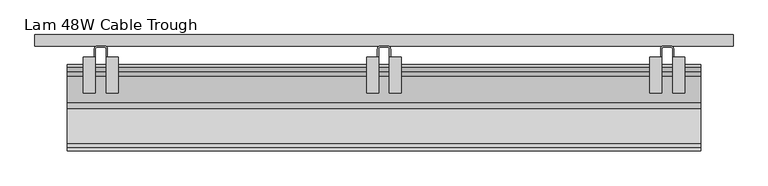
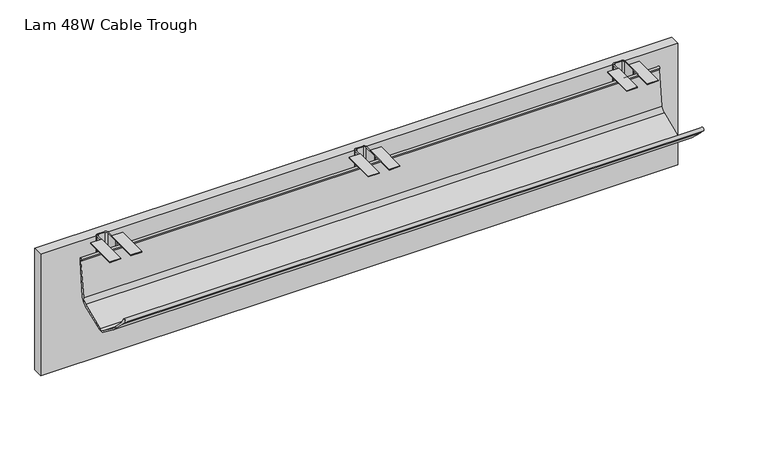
"""IFC4 building model written with IfcOpenShell, lengths in millimetres: furniture geometry, HermanMiller_ThrivePortfolio_Y1113_FabricModestyPanel : Lam 48W Cable Trough."""

import ifcopenshell
import ifcopenshell.guid

model = None  # the IFC model being written
_history = None  # IfcOwnerHistory: only IFC2X3 demands one
_inside = {}  # id of a spatial element -> (the spatial element, [elements in it])
_under = {}  # id of a project, library or spatial element -> (it, [spatial elements below it])
_declared = {}  # id of a project -> (the project, [libraries it declares])
_typed = {}  # id of a type object -> (the type object, [elements of that type])
_made_of = {}  # id of a material, layer set ... -> (it, [elements and type objects made of it])


def new_model(schema):
    """Start an empty IFC model of exactly this schema.

    Asked for "IFC4X3", IfcOpenShell would pick the latest addendum, in which some entities
    have other attributes; the version numbers below select the first issue.
    IFC2X3 requires an IfcOwnerHistory on every rooted entity: one is made here for all.
    """
    global model, _history
    if schema == "IFC4X3":
        model = ifcopenshell.file(schema_version=(4, 3, 0, 0))
    else:
        model = ifcopenshell.file(schema=schema)
    _inside.clear()
    _under.clear()
    _declared.clear()
    _typed.clear()
    _made_of.clear()
    _history = None
    if model.schema == "IFC2X3":
        org = make("IfcOrganization", Name="unknown")
        user = make(
            "IfcPersonAndOrganization",
            ThePerson=make("IfcPerson", FamilyName="unknown"),
            TheOrganization=org,
        )
        app = make(
            "IfcApplication",
            ApplicationDeveloper=org,
            Version="unknown",
            ApplicationFullName="unknown",
            ApplicationIdentifier="unknown",
        )
        _history = make(
            "IfcOwnerHistory",
            OwningUser=user,
            OwningApplication=app,
            ChangeAction="ADDED",
            CreationDate=0,
        )
    return model


def make(cls, **values):
    """One entity of the class cls with the attributes given. An attribute that is None is left unset."""
    return model.create_entity(
        cls, **{name: value for name, value in values.items() if value is not None}
    )


def rooted(cls, **values):
    """An entity with a GlobalId (a new one), such as an element, a storey or a relation."""
    return make(cls, GlobalId=ifcopenshell.guid.new(), OwnerHistory=_history, **values)


def si_unit(unit_type, name, prefix=None):
    """IfcSIUnit, for example si_unit("LENGTHUNIT", "METRE", prefix="MILLI")."""
    return make("IfcSIUnit", UnitType=unit_type, Prefix=prefix, Name=name)


def assignment(units):
    """IfcUnitAssignment: the units of a project."""
    return None if units is None else make("IfcUnitAssignment", Units=units)


def point(xyz):
    """IfcCartesianPoint."""
    return None if xyz is None else make("IfcCartesianPoint", Coordinates=xyz)


def direction(xyz):
    """IfcDirection."""
    return None if xyz is None else make("IfcDirection", DirectionRatios=xyz)


def frame(location, z_axis=None, x_axis=None):
    """IfcAxis2Placement3D, a coordinate frame: its origin and axes. An axis left out is left unset."""
    return make(
        "IfcAxis2Placement3D",
        Location=point(location),
        Axis=direction(z_axis),
        RefDirection=direction(x_axis),
    )


def frame_2d(location, x_axis=None):
    """IfcAxis2Placement2D, a coordinate frame in the plane: its origin and x axis."""
    return make(
        "IfcAxis2Placement2D", Location=point(location), RefDirection=direction(x_axis)
    )


def origin():
    """The frame at (0, 0, 0) with its axes left unset."""
    return frame((0.0, 0.0, 0.0))


def place(relative_to, where):
    """IfcLocalPlacement: puts the frame where relative to a parent placement (None: the world)."""
    return make(
        "IfcLocalPlacement", PlacementRelTo=relative_to, RelativePlacement=where
    )


def context(
    kind, dimensions, precision=None, world=None, true_north=None, identifier=None
):
    """IfcGeometricRepresentationContext, for example the 3D "Model" context."""
    return make(
        "IfcGeometricRepresentationContext",
        ContextIdentifier=identifier,
        ContextType=kind,
        CoordinateSpaceDimension=dimensions,
        Precision=precision,
        WorldCoordinateSystem=world,
        TrueNorth=true_north,
    )


def project(units=None, contexts=None):
    """IfcProject with its units and contexts."""
    return rooted(
        "IfcProject",
        Name="project",
        RepresentationContexts=contexts,
        UnitsInContext=assignment(units),
    )


def spatial(cls, under=None, at=None, **own):
    """A site, building, storey or space (cls), placed at a placement, below another one or the project."""
    s = rooted(cls, ObjectPlacement=at, **own)
    if under is not None:
        _under.setdefault(under.id(), (under, []))[1].append(s)
    return s


def polyline(points):
    """IfcPolyline through the points."""
    return make("IfcPolyline", Points=[point(p) for p in points])


def circle_curve(where, radius):
    """IfcCircle in the frame where."""
    return make("IfcCircle", Position=where, Radius=radius)


def trimmed(basis, trim1, trim2, sense, master):
    """IfcTrimmedCurve: the piece of a basis curve between two trims."""
    return make(
        "IfcTrimmedCurve",
        BasisCurve=basis,
        Trim1=trim1,
        Trim2=trim2,
        SenseAgreement=sense,
        MasterRepresentation=master,
    )


def segment(curve, same_sense, transition):
    """IfcCompositeCurveSegment."""
    return make(
        "IfcCompositeCurveSegment",
        Transition=transition,
        SameSense=same_sense,
        ParentCurve=curve,
    )


def composite_curve(segments, self_intersect=None):
    """IfcCompositeCurve: segments joined end to end."""
    return make("IfcCompositeCurve", Segments=segments, SelfIntersect=self_intersect)


def outline(outer, holes=None, kind="AREA"):
    """IfcArbitraryClosedProfileDef: a profile drawn as a closed curve; with holes, ...WithVoids."""
    if holes is None:
        return make("IfcArbitraryClosedProfileDef", ProfileType=kind, OuterCurve=outer)
    return make(
        "IfcArbitraryProfileDefWithVoids",
        ProfileType=kind,
        OuterCurve=outer,
        InnerCurves=holes,
    )


def extrude(swept, where, along, depth):
    """IfcExtrudedAreaSolid: the profile swept, set in the frame where, extruded along a direction by depth."""
    return make(
        "IfcExtrudedAreaSolid",
        SweptArea=swept,
        Position=where,
        ExtrudedDirection=direction(along),
        Depth=depth,
    )


def shape(context_of_items, identifier, shape_type, items):
    """IfcShapeRepresentation: the items that make up one representation, for example the "Body"."""
    return make(
        "IfcShapeRepresentation",
        ContextOfItems=context_of_items,
        RepresentationIdentifier=identifier,
        RepresentationType=shape_type,
        Items=items,
    )


def source(mapping_origin, context_of_items, identifier, shape_type, items):
    """IfcRepresentationMap: a shape defined once, which mapped items show again and again."""
    return make(
        "IfcRepresentationMap",
        MappingOrigin=mapping_origin,
        MappedRepresentation=shape(context_of_items, identifier, shape_type, items),
    )


def transform(
    local_origin,
    x_axis=None,
    y_axis=None,
    z_axis=None,
    scale=None,
    scale2=None,
    scale3=None,
    uniform=True,
):
    """IfcCartesianTransformationOperator3D, or its non-uniform kind. x_axis, y_axis, z_axis: its Axis1, 2, 3."""
    if uniform:
        return make(
            "IfcCartesianTransformationOperator3D",
            Axis1=direction(x_axis),
            Axis2=direction(y_axis),
            LocalOrigin=point(local_origin),
            Scale=scale,
            Axis3=direction(z_axis),
        )
    return make(
        "IfcCartesianTransformationOperator3DnonUniform",
        Axis1=direction(x_axis),
        Axis2=direction(y_axis),
        LocalOrigin=point(local_origin),
        Scale=scale,
        Axis3=direction(z_axis),
        Scale2=scale2,
        Scale3=scale3,
    )


def mapped(mapping_source, mapping_target):
    """IfcMappedItem: shows the shape of a source again, moved by a transform."""
    return make(
        "IfcMappedItem", MappingSource=mapping_source, MappingTarget=mapping_target
    )


def made_of(thing, what):
    """Note that an element or type object is made of a material, layer set ...; save() writes the relation."""
    if what is not None:
        _made_of.setdefault(what.id(), (what, []))[1].append(thing)
    return thing


def element(
    cls,
    number,
    at=None,
    inside=None,
    cuts=None,
    type_object=None,
    material=None,
    context=None,
    identifier="Body",
    shape_type=None,
    held_by="IfcProductDefinitionShape",
    body=None,
    shapes=None,
    **own,
):
    """One element of the class cls, such as IfcWall. Its Tag is "e" and its number.

    at: its placement. inside: the storey or other place that contains it. cuts: it is an
    opening in that element (IfcRelVoidsElement). A single representation is given by context,
    identifier, shape_type and body (its items); several are given by shapes. held_by: the class
    of the entity that holds the representations. save() writes the other relations.
    """
    e = rooted(cls, Tag="e%d" % number, ObjectPlacement=at, **own)
    if body is not None:
        shapes = [shape(context, identifier, shape_type, body)]
    if shapes is not None:
        e.Representation = make(held_by, Representations=shapes)
    if inside is not None:
        _inside.setdefault(inside.id(), (inside, []))[1].append(e)
    if cuts is not None:
        rooted(
            "IfcRelVoidsElement", RelatingBuildingElement=cuts, RelatedOpeningElement=e
        )
    if type_object is not None:
        _typed.setdefault(type_object.id(), (type_object, []))[1].append(e)
    return made_of(e, material)


def aggregate(whole, parts):
    """IfcRelAggregates: a whole, such as a stair, and the parts it consists of."""
    return rooted("IfcRelAggregates", RelatingObject=whole, RelatedObjects=parts)


def save(model, path):
    """Write the relations noted so far, then the file.

    IfcRelAggregates (storeys below a building ...), IfcRelContainedInSpatialStructure (elements
    in a storey), IfcRelDefinesByType, IfcRelAssociatesMaterial and IfcRelDeclares: one each for
    every whole, place, type object, material and project.
    """
    for whole, parts in _under.values():
        aggregate(whole, parts)
    for where, things in _inside.values():
        rooted(
            "IfcRelContainedInSpatialStructure",
            RelatedElements=things,
            RelatingStructure=where,
        )
    for kind, things in _typed.values():
        rooted("IfcRelDefinesByType", RelatedObjects=things, RelatingType=kind)
    for what, things in _made_of.values():
        rooted("IfcRelAssociatesMaterial", RelatedObjects=things, RelatingMaterial=what)
    for by, libraries in _declared.values():
        rooted("IfcRelDeclares", RelatingContext=by, RelatedDefinitions=libraries)
    model.write(path)


def plane_surface(at):
    """IfcPlane: the flat surface through the origin of the frame at, square to its z axis."""
    return make("IfcPlane", Position=at)


def cylinder_surface(at, radius):
    """IfcCylindricalSurface: all points at the distance radius from the z axis of the frame at."""
    return make("IfcCylindricalSurface", Position=at, Radius=radius)


def revolved_surface(curve, axis_point, axis_direction):
    """IfcSurfaceOfRevolution: the curve turned about the line through axis_point along axis_direction."""
    return make(
        "IfcSurfaceOfRevolution",
        SweptCurve=make("IfcArbitraryOpenProfileDef", ProfileType="CURVE", Curve=curve),
        AxisPosition=make("IfcAxis1Placement", Location=point(axis_point), Axis=direction(axis_direction)),
    )


def advanced_brep(points, edges, surfaces, faces):
    """IfcAdvancedBrep: a solid bounded by faces that lie on surfaces and meet in shared edges.

    An edge is (start, end): straight between two places in points (the first is 0);
    or (start, end, curve); or (start, end, curve, False) where it runs against its curve.
    A face is (place in surfaces, loops), or (place, loops, False) where it looks against
    its surface's normal. A loop lists edges by number (the first is 1), with a minus sign
    where the edge is run from its end to its start. The first loop is the outer one.
    """
    corners = [point(p) for p in points]
    vertices = [make("IfcVertexPoint", VertexGeometry=c) for c in corners]
    made = []
    for start, end, *more in edges:
        made.append(
            make(
                "IfcEdgeCurve",
                EdgeStart=vertices[start],
                EdgeEnd=vertices[end],
                EdgeGeometry=more[0] if more else make("IfcPolyline", Points=[corners[start], corners[end]]),
                SameSense=more[1] if len(more) > 1 else True,
            )
        )
    hull = []
    for where, loops, *sense in faces:
        bounds = []
        for j, loop in enumerate(loops):
            ring = [make("IfcOrientedEdge", EdgeElement=made[abs(k) - 1], Orientation=k > 0) for k in loop]
            bounds.append(
                make(
                    "IfcFaceOuterBound" if j == 0 else "IfcFaceBound",
                    Bound=make("IfcEdgeLoop", EdgeList=ring),
                    Orientation=True,
                )
            )
        hull.append(make("IfcAdvancedFace", Bounds=bounds, FaceSurface=surfaces[where], SameSense=sense[0] if sense else True))
    return make("IfcAdvancedBrep", Outer=make("IfcClosedShell", CfsFaces=hull))


def lam_48w_cable_trough_d124625d(model_context):
    return source(origin(), model_context, "Body", "SolidModel", [
        advanced_brep(
        [(1151.1153477, -129.9784643, 581.1783587), (1151.1153477, -138.7139894, 582.4060567), (1151.1153477, -198.75422, 634.7826925), (1151.1153477, -205.6805694, 647.1068285), (1151.1153477, -210.7198187, 643.3318213), (1151.1153477, -201.9455586, 634.3526316), (1151.1153477, -140.1690696, 580.3237712), (1151.1153477, -128.7464487, 578.9254856), (1151.1153477, -81.6381997, 596.9970871), (1151.1153477, -71.8455102, 609.1183797), (1151.1153477, -64.3572545, 676.9567898), (1151.1153477, -64.1154724, 681.4861643), (1151.1153477, -68.0580279, 680.8258123), (1151.1153477, -66.8071049, 677.1174631), (1151.1153477, -75.8148763, 609.8656088), (1151.1153477, -83.0609093, 601.0742849), (64.9478, -129.9784643, 581.1783587), (64.9478, -83.0609093, 601.0742849), (64.9478, -75.8148763, 609.8656088), (64.9478, -66.8071049, 677.1174631), (64.9478, -68.0580279, 680.8258123), (64.9478, -64.1154724, 681.4861643), (64.9478, -64.3572545, 676.9567898), (64.9478, -71.8455102, 609.1183797), (64.9478, -81.6381999, 596.9970876), (64.9478, -128.7464487, 578.9254856), (64.9478, -140.1690696, 580.3237712), (64.9478, -201.9455586, 634.3526316), (64.9478, -210.7198187, 643.3318213), (64.9478, -205.6805694, 647.1068285), (64.9478, -198.75422, 634.7826925), (64.9478, -138.7139894, 582.4060567)],
        [
            (0, 1, circle_curve(frame((1151.1153477, -133.1380873, 590.3885672), z_axis=(-1.0, 0.0, 0.0), x_axis=(0.0, 1.0, 0.0)), 9.7371022)),
            (1, 2, circle_curve(frame((1151.1153477, 73.7032601, 886.5044589), z_axis=(-1.0, 0.0, 0.0), x_axis=(0.0, 1.0, 0.0)), 370.9405965)),
            (2, 3),
            (3, 4, circle_curve(frame((1151.1153477, -208.4487225, 645.5510849), z_axis=(1.0, 0.0, 0.0), x_axis=(0.0, 1.0, 0.0)), 3.1753754)),
            (4, 5),
            (5, 6, circle_curve(frame((1151.1153477, 76.537838, 890.4379944), z_axis=(1.0, 0.0, 0.0), x_axis=(0.0, 1.0, 0.0)), 378.3288454)),
            (6, 7, circle_curve(frame((1151.1153477, -133.1410154, 590.381132), z_axis=(1.0, 0.0, 0.0), x_axis=(0.0, 1.0, 0.0)), 12.2696394)),
            (7, 8, circle_curve(frame((1151.1153477, -392.0017774, 1335.603441), z_axis=(1.0, 0.0, 0.0), x_axis=(0.0, 1.0, 0.0)), 801.1647124)),
            (8, 9, circle_curve(frame((1151.1153477, -88.0102619, 612.1613845), z_axis=(1.0, 0.0, 0.0), x_axis=(0.0, 1.0, 0.0)), 16.4486801)),
            (9, 10, circle_curve(frame((1151.1153477, -512.7649574, 692.1212018), z_axis=(1.0, 0.0, 0.0), x_axis=(0.0, 1.0, 0.0)), 448.6640474)),
            (10, 11),
            (11, 12, circle_curve(frame((1151.1153477, -66.1477003, 681.5198841), z_axis=(1.0, 0.0, 0.0), x_axis=(0.0, 1.0, 0.0)), 2.0325076)),
            (12, 13),
            (13, 14, circle_curve(frame((1151.1153477, -447.5076004, 693.8796345), z_axis=(-1.0, 0.0, 0.0), x_axis=(0.0, 1.0, 0.0)), 381.0693344)),
            (14, 15, circle_curve(frame((1151.1153477, -89.557462, 613.8107535), z_axis=(-1.0, 0.0, 0.0), x_axis=(0.0, 1.0, 0.0)), 14.2976511)),
            (15, 0, circle_curve(frame((1151.1153477, -247.1923462, 922.853387), z_axis=(-1.0, 0.0, 0.0), x_axis=(0.0, 1.0, 0.0)), 361.2214267)),
            (16, 17, circle_curve(frame((64.9478, -247.1923462, 922.853387), z_axis=(1.0, 0.0, 0.0), x_axis=(0.0, 1.0, 0.0)), 361.2214267)),
            (17, 18, circle_curve(frame((64.9478, -89.557462, 613.8107535), z_axis=(1.0, 0.0, 0.0), x_axis=(0.0, 1.0, 0.0)), 14.2976511)),
            (18, 19, circle_curve(frame((64.9478, -447.5076004, 693.8796345), z_axis=(1.0, 0.0, 0.0), x_axis=(0.0, 1.0, 0.0)), 381.0693344)),
            (19, 20),
            (20, 21, circle_curve(frame((64.9478, -66.1477003, 681.5198841), z_axis=(-1.0, 0.0, 0.0), x_axis=(0.0, 1.0, 0.0)), 2.0325076)),
            (21, 22),
            (22, 23, circle_curve(frame((64.9478, -512.7649574, 692.1212018), z_axis=(-1.0, 0.0, 0.0), x_axis=(0.0, 1.0, 0.0)), 448.6640474)),
            (23, 24, circle_curve(frame((64.9478, -88.0102619, 612.1613845), z_axis=(-1.0, 0.0, 0.0), x_axis=(0.0, 1.0, 0.0)), 16.4486801)),
            (24, 25, circle_curve(frame((64.9478, -392.0017774, 1335.603441), z_axis=(-1.0, 0.0, 0.0), x_axis=(0.0, 1.0, 0.0)), 801.1647124)),
            (25, 26, circle_curve(frame((64.9478, -133.1410154, 590.381132), z_axis=(-1.0, 0.0, 0.0), x_axis=(0.0, 1.0, 0.0)), 12.2696394)),
            (26, 27, circle_curve(frame((64.9478, 76.537838, 890.4379944), z_axis=(-1.0, 0.0, 0.0), x_axis=(0.0, 1.0, 0.0)), 378.3288454)),
            (27, 28),
            (28, 29, circle_curve(frame((64.9478, -208.4487225, 645.5510849), z_axis=(-1.0, 0.0, 0.0), x_axis=(0.0, 1.0, 0.0)), 3.1753754)),
            (29, 30),
            (30, 31, circle_curve(frame((64.9478, 73.7032601, 886.5044589), z_axis=(1.0, 0.0, 0.0), x_axis=(0.0, 1.0, 0.0)), 370.9405965)),
            (31, 16, circle_curve(frame((64.9478, -133.1380873, 590.3885672), z_axis=(1.0, 0.0, 0.0), x_axis=(0.0, 1.0, 0.0)), 9.7371022)),
            (0, 16),
            (31, 1),
            (30, 2),
            (29, 3),
            (28, 4),
            (27, 5),
            (26, 6),
            (25, 7),
            (24, 8),
            (23, 9),
            (22, 10),
            (21, 11),
            (20, 12),
            (19, 13),
            (18, 14),
            (17, 15),
        ],
        [
            plane_surface(frame((1151.1153477, -123.4009851, 590.3885672), z_axis=(1.0, 0.0, 0.0), x_axis=(0.0, 0.0, -1.0))),
            plane_surface(frame((64.9478, -123.4009851, 590.3885672), z_axis=(-1.0, 0.0, 0.0), x_axis=(0.0, 0.0, 1.0))),
            revolved_surface(polyline([(64.9478, -123.4009851, 590.3885672), (1151.1153477, -123.4009851, 590.3885672)]), (64.9478, -133.1380873, 590.3885672), (-1.0, 0.0, 0.0)),
            revolved_surface(polyline([(64.9478, 444.64385660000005, 886.5044589), (1151.1153477, 444.64385660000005, 886.5044589)]), (64.9478, 73.7032601, 886.5044589), (-1.0, 0.0, 0.0)),
            plane_surface(frame((1151.1153477, -198.75422, 634.7826925), z_axis=(0.0, 0.8717561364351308, 0.48994003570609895), x_axis=(-1.0, 0.0, 0.0))),
            cylinder_surface(frame((64.9478, -208.4487225, 645.5510849), z_axis=(1.0, 0.0, 0.0), x_axis=(0.0, 1.0, 0.0)), 3.1753754),
            plane_surface(frame((1151.1153477, -210.7198187, 643.3318213), z_axis=(0.0, -0.7152213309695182, -0.698898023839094), x_axis=(-1.0, 0.0, 0.0))),
            cylinder_surface(frame((64.9478, 76.537838, 890.4379944), z_axis=(1.0, 0.0, 0.0), x_axis=(0.0, 1.0, 0.0)), 378.3288454),
            cylinder_surface(frame((64.9478, -133.1410154, 590.381132), z_axis=(1.0, 0.0, 0.0), x_axis=(0.0, 1.0, 0.0)), 12.2696394),
            cylinder_surface(frame((64.9478, -392.0017774, 1335.603441), z_axis=(1.0, 0.0, 0.0), x_axis=(0.0, 1.0, 0.0)), 801.1647124),
            cylinder_surface(frame((64.9478, -88.0102619, 612.1613845), z_axis=(1.0, 0.0, 0.0), x_axis=(0.0, 1.0, 0.0)), 16.4486801),
            cylinder_surface(frame((64.9478, -512.7649574, 692.1212018), z_axis=(1.0, 0.0, 0.0), x_axis=(0.0, 1.0, 0.0)), 448.6640474),
            plane_surface(frame((1151.1153477, -64.3572545, 676.9567898), z_axis=(0.0, 0.9985782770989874, -0.053305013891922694), x_axis=(-1.0, 0.0, 0.0))),
            cylinder_surface(frame((64.9478, -66.1477003, 681.5198841), z_axis=(1.0, 0.0, 0.0), x_axis=(0.0, 1.0, 0.0)), 2.0325076),
            plane_surface(frame((1151.1153477, -68.0580279, 680.8258123), z_axis=(0.0, -0.9475421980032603, -0.3196306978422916), x_axis=(-1.0, 0.0, 0.0))),
            revolved_surface(polyline([(64.9478, -66.438266, 693.8796345), (1151.1153477, -66.438266, 693.8796345)]), (64.9478, -447.5076004, 693.8796345), (-1.0, 0.0, 0.0)),
            revolved_surface(polyline([(64.9478, -75.2598109, 613.8107535), (1151.1153477, -75.2598109, 613.8107535)]), (64.9478, -89.557462, 613.8107535), (-1.0, 0.0, 0.0)),
            revolved_surface(polyline([(64.9478, 114.02908049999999, 922.853387), (1151.1153477, 114.02908049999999, 922.853387)]), (64.9478, -247.1923462, 922.853387), (-1.0, 0.0, 0.0)),
        ],
        [
            (0, [[1, 2, 3, 4, 5, 6, 7, 8, 9, 10, 11, 12, 13, 14, 15, 16]]),
            (1, [[17, 18, 19, 20, 21, 22, 23, 24, 25, 26, 27, 28, 29, 30, 31, 32]]),
            (2, [[-1, 33, -32, 34]]),
            (3, [[-2, -34, -31, 35]]),
            (4, [[-3, -35, -30, 36]]),
            (5, [[-4, -36, -29, 37]]),
            (6, [[-5, -37, -28, 38]]),
            (7, [[-6, -38, -27, 39]]),
            (8, [[-7, -39, -26, 40]]),
            (9, [[-8, -40, -25, 41]]),
            (10, [[-9, -41, -24, 42]]),
            (11, [[-10, -42, -23, 43]]),
            (12, [[-11, -43, -22, 44]]),
            (13, [[-12, -44, -21, 45]]),
            (14, [[-13, -45, -20, 46]]),
            (15, [[-14, -46, -19, 47]]),
            (16, [[-15, -47, -18, 48]]),
            (17, [[-16, -48, -17, -33]]),
        ],
    ),
        extrude(outline(composite_curve([segment(polyline([(619.2520075, -36.9120729), (619.2520075, -64.1154724), (617.4993892, -64.1154724), (617.4993892, -36.9120524)]), True, "CONTINUOUS"), segment(trimmed(circle_curve(frame_2d((614.2228087, -36.9120524)), 3.2765805), [point((617.4993892, -36.9120524))], [point((614.2228087, -33.6354719))], True, "CARTESIAN"), True, "CONTINUOUS"), segment(polyline([(614.2228087, -33.6354719), (601.9292118, -33.6354719)]), True, "CONTINUOUS"), segment(trimmed(circle_curve(frame_2d((601.9292118, -36.9120729)), 3.276601), [point((601.9292118, -33.6354719))], [point((598.6526108, -36.9120729))], True, "CARTESIAN"), True, "CONTINUOUS"), segment(polyline([(598.6526108, -36.9120729), (598.6526108, -64.1154724), (596.9000288, -64.1154724), (596.9000288, -36.9138188)]), True, "CONTINUOUS"), segment(trimmed(circle_curve(frame_2d((601.9292277, -36.9138188)), 5.0291988), [point((596.9000288, -36.9138188))], [point((601.9292277, -31.88462))], False, "CARTESIAN"), True, "CONTINUOUS"), segment(polyline([(601.9292277, -31.88462), (614.2245546, -31.88462)]), True, "CONTINUOUS"), segment(trimmed(circle_curve(frame_2d((614.2245546, -36.9120729)), 5.0274529), [point((614.2245546, -31.88462))], [point((619.2520075, -36.9120729))], False, "CARTESIAN"), True, "CONTINUOUS")], self_intersect=False)), frame((0.0, 0.0, 627.634001), z_axis=(0.0, 0.0, 1.0), x_axis=(1.0, 0.0, 0.0)), (0.0, 0.0, 1.0), 64.6430019),
        extrude(outline(polyline([(598.6526108, -50.8780491), (598.6526108, -112.3460495), (578.2817975, -112.3460495), (578.2817975, -50.8780491), (598.6526108, -50.8780491)])), frame((0.0, 0.0, 692.2770029), z_axis=(0.0, 0.0, 1.0), x_axis=(1.0, 0.0, 0.0)), (0.0, 0.0, 1.0), 1.7525971),
        extrude(outline(polyline([(617.4993892, -50.8780491), (637.8702025, -50.8780491), (637.8702025, -112.3460495), (617.4993892, -112.3460495), (617.4993892, -50.8780491)])), frame((0.0, 0.0, 692.2770029), z_axis=(0.0, 0.0, 1.0), x_axis=(1.0, 0.0, 0.0)), (0.0, 0.0, 1.0), 1.7525971),
        extrude(outline(composite_curve([segment(polyline([(134.034088, -64.1154724), (132.2814878, -64.1154724), (132.2814878, -36.9120706)]), True, "CONTINUOUS"), segment(trimmed(circle_curve(frame_2d((129.0048891, -36.9120706)), 3.2765987), [point((132.2814878, -36.9120706))], [point((129.0048891, -33.6354719))], True, "CARTESIAN"), True, "CONTINUOUS"), segment(polyline([(129.0048891, -33.6354719), (116.7112831, -33.6354719)]), True, "CONTINUOUS"), segment(trimmed(circle_curve(frame_2d((116.7112831, -36.9120729)), 3.276601), [point((116.7112831, -33.6354719))], [point((113.4346822, -36.9120729))], True, "CARTESIAN"), True, "CONTINUOUS"), segment(polyline([(113.4346822, -36.9120729), (113.4346822, -64.1154724), (111.682082, -64.1154724), (111.682082, -36.9073034)]), True, "CONTINUOUS"), segment(trimmed(circle_curve(frame_2d((116.7047655, -36.9073034)), 5.0226834), [point((111.682082, -36.9073034))], [point((116.7047655, -31.88462))], False, "CARTESIAN"), True, "CONTINUOUS"), segment(polyline([(116.7047655, -31.88462), (129.0066351, -31.88462)]), True, "CONTINUOUS"), segment(trimmed(circle_curve(frame_2d((129.0066351, -36.9120729)), 5.0274529), [point((129.0066351, -31.88462))], [point((134.034088, -36.9120729))], False, "CARTESIAN"), True, "CONTINUOUS"), segment(polyline([(134.034088, -36.9120729), (134.034088, -64.1154724)]), True, "CONTINUOUS")], self_intersect=False)), frame((0.0, 0.0, 627.634001), z_axis=(0.0, 0.0, 1.0), x_axis=(1.0, 0.0, 0.0)), (0.0, 0.0, 1.0), 64.6430019),
        extrude(outline(composite_curve([segment(polyline([(1104.4720465, -64.1154724), (1102.7194282, -64.1154724), (1102.7194282, -36.9120524)]), True, "CONTINUOUS"), segment(trimmed(circle_curve(frame_2d((1099.4428476, -36.9120524)), 3.2765805), [point((1102.7194282, -36.9120524))], [point((1099.4428476, -33.6354719))], True, "CARTESIAN"), True, "CONTINUOUS"), segment(polyline([(1099.4428476, -33.6354719), (1087.1492507, -33.6354719)]), True, "CONTINUOUS"), segment(trimmed(circle_curve(frame_2d((1087.1492507, -36.9120729)), 3.276601), [point((1087.1492507, -33.6354719))], [point((1083.8726498, -36.9120729))], True, "CARTESIAN"), True, "CONTINUOUS"), segment(polyline([(1083.8726498, -36.9120729), (1083.8726498, -64.1154724), (1082.1200315, -64.1154724), (1082.1200315, -36.9072943)]), True, "CONTINUOUS"), segment(trimmed(circle_curve(frame_2d((1087.1427058, -36.9072943)), 5.0226743), [point((1082.1200315, -36.9072943))], [point((1087.1427058, -31.88462))], False, "CARTESIAN"), True, "CONTINUOUS"), segment(polyline([(1087.1427058, -31.88462), (1099.4445936, -31.88462)]), True, "CONTINUOUS"), segment(trimmed(circle_curve(frame_2d((1099.4445936, -36.9120729)), 5.0274529), [point((1099.4445936, -31.88462))], [point((1104.4720465, -36.9120729))], False, "CARTESIAN"), True, "CONTINUOUS"), segment(polyline([(1104.4720465, -36.9120729), (1104.4720465, -64.1154724)]), True, "CONTINUOUS")], self_intersect=False)), frame((0.0, 0.0, 627.634001), z_axis=(0.0, 0.0, 1.0), x_axis=(1.0, 0.0, 0.0)), (0.0, 0.0, 1.0), 64.6430019),
        extrude(outline(polyline([(113.4346822, -112.3460495), (93.0638871, -112.3460495), (93.0638871, -50.8780491), (113.4346822, -50.8780491), (113.4346822, -112.3460495)])), frame((0.0, 0.0, 692.2770029), z_axis=(0.0, 0.0, 1.0), x_axis=(1.0, 0.0, 0.0)), (0.0, 0.0, 1.0), 1.7525971),
        extrude(outline(polyline([(152.652292, -50.8780491), (152.652292, -112.3460495), (132.2814878, -112.3460495), (132.2814878, -50.8780491), (152.652292, -50.8780491)])), frame((0.0, 0.0, 692.2770029), z_axis=(0.0, 0.0, 1.0), x_axis=(1.0, 0.0, 0.0)), (0.0, 0.0, 1.0), 1.7525971),
        extrude(outline(polyline([(1083.8726498, -50.8780491), (1083.8726498, -112.3460495), (1063.5018365, -112.3460495), (1063.5018365, -50.8780491), (1083.8726498, -50.8780491)])), frame((0.0, 0.0, 692.2770029), z_axis=(0.0, 0.0, 1.0), x_axis=(1.0, 0.0, 0.0)), (0.0, 0.0, 1.0), 1.7525971),
        extrude(outline(polyline([(1102.7194282, -50.8780491), (1123.0902414, -50.8780491), (1123.0902414, -112.3460495), (1102.7194282, -112.3460495), (1102.7194282, -50.8780491)])), frame((0.0, 0.0, 692.2770029), z_axis=(0.0, 0.0, 1.0), x_axis=(1.0, 0.0, 0.0)), (0.0, 0.0, 1.0), 1.7525971),
        extrude(outline(polyline([(1206.246, -12.58062), (1206.246, -31.88462), (9.906, -31.88462), (9.906, -12.58062), (1206.246, -12.58062)])), frame((0.0, 0.0, 447.66738), z_axis=(0.0, 0.0, 1.0), x_axis=(1.0, 0.0, 0.0)), (0.0, 0.0, 1.0), 241.3),
    ])


if __name__ == "__main__":
    model = new_model("IFC4")
    model_context = context("Model", 3, world=origin())
    ifc_project = project(units=[si_unit("LENGTHUNIT", "METRE", prefix="MILLI")], contexts=[model_context])
    site = spatial("IfcSite", under=ifc_project)
    building = spatial("IfcBuilding", under=site)
    placement = place(None, origin())
    lam_48w_cable_trough_shape = lam_48w_cable_trough_d124625d(model_context)
    element("IfcFurniture", 1, ObjectType="HermanMiller_ThrivePortfolio_Y1113_FabricModestyPanel : Lam 48W Cable Trough", at=placement, inside=building, context=model_context, shape_type="MappedRepresentation", body=[
        mapped(lam_48w_cable_trough_shape, transform((0.0, 0.0, 0.0), x_axis=(1.0, 0.0, 0.0), y_axis=(0.0, 1.0, 0.0), z_axis=(0.0, 0.0, 1.0))),
    ])
    save(model, "model.ifc")
